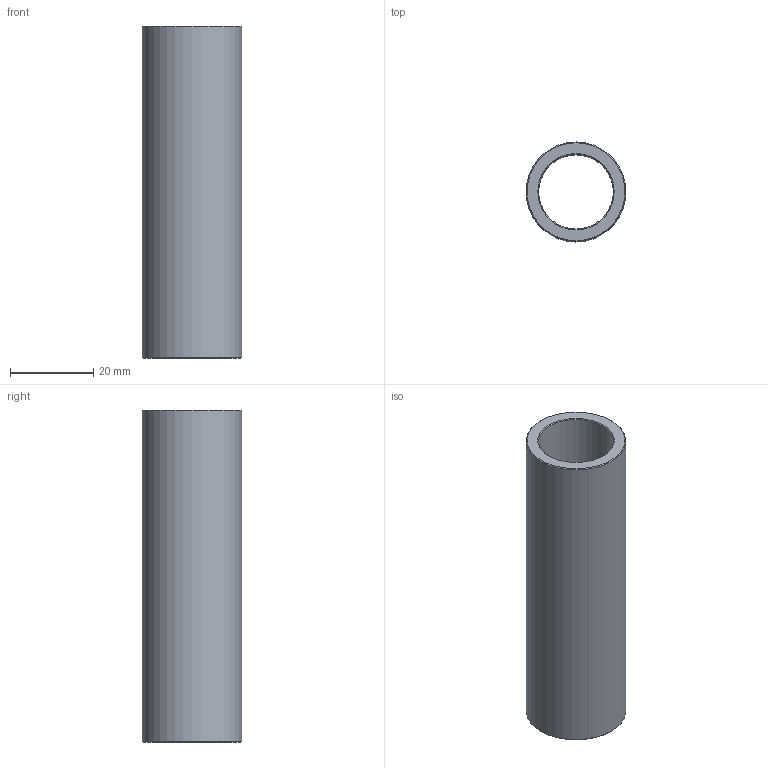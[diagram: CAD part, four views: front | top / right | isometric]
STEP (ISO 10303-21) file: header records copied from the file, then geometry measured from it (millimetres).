
FILE_DESCRIPTION(('STEP AP203'),'1');
FILE_NAME('C:/Users/Rodrigo/Desktop/GA3.018.080-1.step','2016-11-07T13:03:14',(' '),(' '),'Spatial InterOp 3D',' ',' ');
FILE_SCHEMA(('CONFIG_CONTROL_DESIGN'));
Length unit declared in the file: millimetre
Products named in the file (1): 1
Bounding box: 24 x 24 x 80 mm (x, y, z)
Volume: 15828.3 mm3; surface area: 10920.7 mm2
Topology: 1 solids, 1 shells, 8 faces, 14 edges, 8 vertices
Faces by surface type: cone 4, cylinder 2, plane 2
Full cylindrical faces by diameter (mm): 18 x1, 24 x1
Entity records: 212 total; most frequent: DIRECTION 34, CARTESIAN_POINT 25, AXIS2_PLACEMENT_3D 17, EDGE_LOOP 16, ORIENTED_EDGE 16, FACE_OUTER_BOUND 10, ADVANCED_FACE 8, EDGE_CURVE 8
